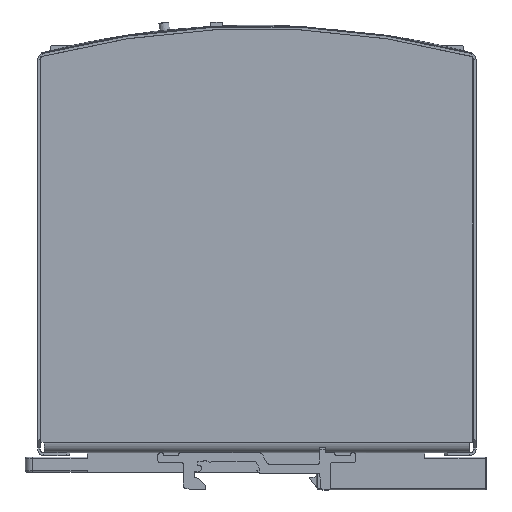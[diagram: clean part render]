
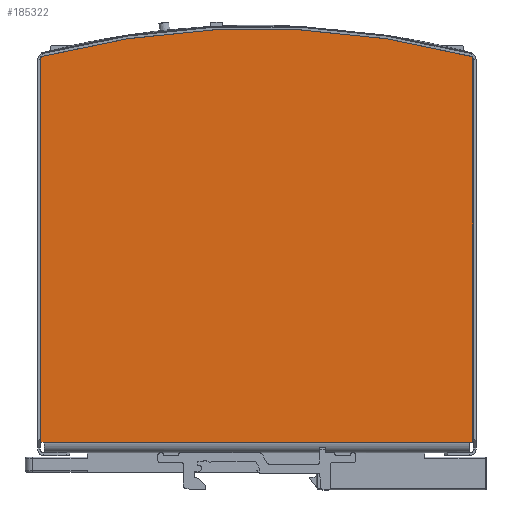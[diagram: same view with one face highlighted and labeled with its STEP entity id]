
A CAD part, left-side view. The second image highlights one B-rep face of the part: STEP entity #185322.
In plain terms, the highlighted planar face has unit normal (-1, 0, 0).
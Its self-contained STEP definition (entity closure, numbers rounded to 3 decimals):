
#4943 = EDGE_CURVE ( 'NONE', #197127, #59282, #146922, .T. ) ;
#14450 = VERTEX_POINT ( 'NONE', #59036 ) ;
#19690 = ORIENTED_EDGE ( 'NONE', *, *, #4943, .F. ) ;
#21530 = EDGE_CURVE ( 'NONE', #59282, #108255, #92500, .T. ) ;
#22138 = PLANE ( 'NONE',  #56659 ) ;
#23133 = FACE_OUTER_BOUND ( 'NONE', #142884, .T. ) ;
#31450 = CARTESIAN_POINT ( 'NONE',  ( -24., -61.15, 3. ) ) ;
#35191 = ORIENTED_EDGE ( 'NONE', *, *, #155118, .T. ) ;
#41174 = DIRECTION ( 'NONE',  ( 0., 0., -1. ) ) ;
#56659 = AXIS2_PLACEMENT_3D ( 'NONE', #167785, #89184, #56703 ) ;
#56703 = DIRECTION ( 'NONE',  ( 0., 0., 1. ) ) ;
#59036 = CARTESIAN_POINT ( 'NONE',  ( -24., 61.15, 112.079 ) ) ;
#59282 = VERTEX_POINT ( 'NONE', #182904 ) ;
#59759 = LINE ( 'NONE', #88216, #166964 ) ;
#67685 = ORIENTED_EDGE ( 'NONE', *, *, #187127, .F. ) ;
#73084 = DIRECTION ( 'NONE',  ( 0., 1., 0. ) ) ;
#79238 = ORIENTED_EDGE ( 'NONE', *, *, #121695, .F. ) ;
#87869 = CARTESIAN_POINT ( 'NONE',  ( -24., 60.15, 3. ) ) ;
#88216 = CARTESIAN_POINT ( 'NONE',  ( -24., 61.15, 130. ) ) ;
#89184 = DIRECTION ( 'NONE',  ( 1., 0., 0. ) ) ;
#92496 = ORIENTED_EDGE ( 'NONE', *, *, #21530, .F. ) ;
#92500 = LINE ( 'NONE', #31450, #174267 ) ;
#106771 = CARTESIAN_POINT ( 'NONE',  ( -24., -61.15, 130. ) ) ;
#108255 = VERTEX_POINT ( 'NONE', #87869 ) ;
#118585 = CARTESIAN_POINT ( 'NONE',  ( -24., 0., -120. ) ) ;
#121695 = EDGE_CURVE ( 'NONE', #108255, #148565, #184273, .T. ) ;
#131396 = CIRCLE ( 'NONE', #160649, 240. ) ;
#137211 = VERTEX_POINT ( 'NONE', #165675 ) ;
#138364 = DIRECTION ( 'NONE',  ( 0., 0., -1. ) ) ;
#142884 = EDGE_LOOP ( 'NONE', ( #67685, #172860, #35191, #79238, #92496, #19690 ) ) ;
#146217 = CARTESIAN_POINT ( 'NONE',  ( -24., -61.15, 3. ) ) ;
#146922 = LINE ( 'NONE', #194983, #191962 ) ;
#148565 = VERTEX_POINT ( 'NONE', #164428 ) ;
#155118 = EDGE_CURVE ( 'NONE', #14450, #148565, #59759, .T. ) ;
#156313 = EDGE_CURVE ( 'NONE', #137211, #14450, #131396, .T. ) ;
#160649 = AXIS2_PLACEMENT_3D ( 'NONE', #118585, #193172, #41174 ) ;
#162302 = DIRECTION ( 'NONE',  ( 0., 1., 0. ) ) ;
#164428 = CARTESIAN_POINT ( 'NONE',  ( -24., 61.15, 3. ) ) ;
#165675 = CARTESIAN_POINT ( 'NONE',  ( -24., -61.15, 112.079 ) ) ;
#166964 = VECTOR ( 'NONE', #200493, 1000. ) ;
#167785 = CARTESIAN_POINT ( 'NONE',  ( -24., -61.15, 130. ) ) ;
#170096 = DIRECTION ( 'NONE',  ( 0., 1., 0. ) ) ;
#172860 = ORIENTED_EDGE ( 'NONE', *, *, #156313, .T. ) ;
#174086 = VECTOR ( 'NONE', #73084, 1000. ) ;
#174267 = VECTOR ( 'NONE', #170096, 1000. ) ;
#182904 = CARTESIAN_POINT ( 'NONE',  ( -24., -60.15, 3. ) ) ;
#184273 = LINE ( 'NONE', #198576, #174086 ) ;
#185322 = ADVANCED_FACE ( 'NONE', ( #23133 ), #22138, .F. ) ;
#187127 = EDGE_CURVE ( 'NONE', #137211, #197127, #199668, .T. ) ;
#188039 = VECTOR ( 'NONE', #138364, 1000. ) ;
#191962 = VECTOR ( 'NONE', #162302, 1000. ) ;
#193172 = DIRECTION ( 'NONE',  ( -1., 0., 0. ) ) ;
#194983 = CARTESIAN_POINT ( 'NONE',  ( -24., -61.15, 3. ) ) ;
#197127 = VERTEX_POINT ( 'NONE', #146217 ) ;
#198576 = CARTESIAN_POINT ( 'NONE',  ( -24., 60.15, 3. ) ) ;
#199668 = LINE ( 'NONE', #106771, #188039 ) ;
#200493 = DIRECTION ( 'NONE',  ( 0., 0., -1. ) ) ;
